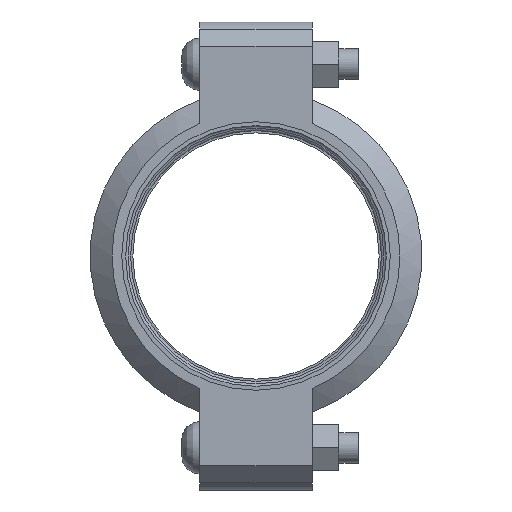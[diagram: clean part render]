
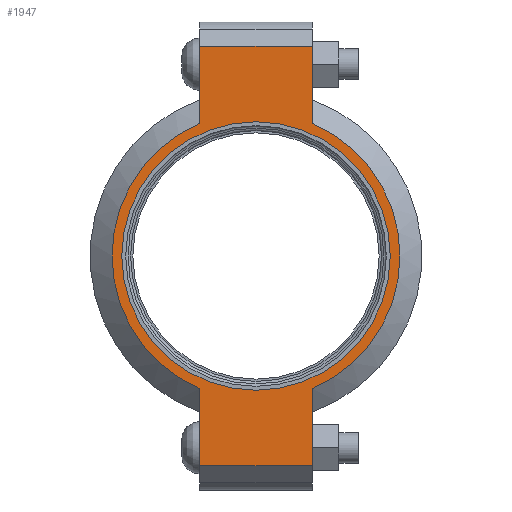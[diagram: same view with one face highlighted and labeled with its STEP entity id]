
A CAD part, left-side view. The second image highlights one B-rep face of the part: STEP entity #1947.
In plain terms, the highlighted planar face has unit normal (-1, 0, 0) as drawn and (0, 0, 1) by its records, which use the part's own axes.
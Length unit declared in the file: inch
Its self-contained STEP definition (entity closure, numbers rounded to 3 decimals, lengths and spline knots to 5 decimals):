
#136=LINE('',#3451,#233);
#144=LINE('',#3487,#241);
#151=LINE('',#3508,#248);
#160=LINE('',#3540,#257);
#161=LINE('',#3544,#258);
#162=LINE('',#3546,#259);
#233=VECTOR('',#2815,0.3937);
#241=VECTOR('',#2831,0.3937);
#248=VECTOR('',#2850,0.3937);
#257=VECTOR('',#2875,0.3937);
#258=VECTOR('',#2880,0.3937);
#259=VECTOR('',#2881,0.3937);
#315=FACE_BOUND('',#565,.T.);
#359=PLANE('',#2286);
#447=FACE_OUTER_BOUND('',#564,.T.);
#564=EDGE_LOOP('',(#1668,#1669,#1670,#1671,#1672,#1673,#1674,#1675));
#565=EDGE_LOOP('',(#1676));
#737=CIRCLE('',#2287,2.95);
#738=CIRCLE('',#2288,2.95);
#739=CIRCLE('',#2289,2.75);
#901=VERTEX_POINT('',#3448);
#902=VERTEX_POINT('',#3450);
#913=VERTEX_POINT('',#3482);
#914=VERTEX_POINT('',#3486);
#921=VERTEX_POINT('',#3505);
#922=VERTEX_POINT('',#3507);
#932=VERTEX_POINT('',#3543);
#933=VERTEX_POINT('',#3545);
#934=VERTEX_POINT('',#3548);
#1146=EDGE_CURVE('',#902,#901,#136,.T.);
#1160=EDGE_CURVE('',#914,#913,#144,.T.);
#1170=EDGE_CURVE('',#922,#921,#151,.T.);
#1185=EDGE_CURVE('',#914,#901,#160,.T.);
#1186=EDGE_CURVE('',#913,#922,#737,.T.);
#1187=EDGE_CURVE('',#932,#921,#161,.T.);
#1188=EDGE_CURVE('',#932,#933,#162,.T.);
#1189=EDGE_CURVE('',#933,#902,#738,.T.);
#1190=EDGE_CURVE('',#934,#934,#739,.T.);
#1668=ORIENTED_EDGE('',*,*,#1185,.F.);
#1669=ORIENTED_EDGE('',*,*,#1160,.T.);
#1670=ORIENTED_EDGE('',*,*,#1186,.T.);
#1671=ORIENTED_EDGE('',*,*,#1170,.T.);
#1672=ORIENTED_EDGE('',*,*,#1187,.F.);
#1673=ORIENTED_EDGE('',*,*,#1188,.T.);
#1674=ORIENTED_EDGE('',*,*,#1189,.T.);
#1675=ORIENTED_EDGE('',*,*,#1146,.T.);
#1676=ORIENTED_EDGE('',*,*,#1190,.T.);
#1947=ADVANCED_FACE('',(#447,#315),#359,.T.);
#2286=AXIS2_PLACEMENT_3D('',#3541,#2876,#2877);
#2287=AXIS2_PLACEMENT_3D('',#3542,#2878,#2879);
#2288=AXIS2_PLACEMENT_3D('',#3547,#2882,#2883);
#2289=AXIS2_PLACEMENT_3D('',#3549,#2884,#2885);
#2815=DIRECTION('',(1.,0.,0.));
#2831=DIRECTION('',(-1.,0.,0.));
#2850=DIRECTION('',(-1.,0.,0.));
#2875=DIRECTION('',(0.,-1.,0.));
#2876=DIRECTION('center_axis',(0.,0.,1.));
#2877=DIRECTION('ref_axis',(-1.,0.,0.));
#2878=DIRECTION('center_axis',(0.,0.,1.));
#2879=DIRECTION('ref_axis',(1.,0.,0.));
#2880=DIRECTION('',(0.,1.,0.));
#2881=DIRECTION('',(1.,0.,0.));
#2882=DIRECTION('center_axis',(0.,0.,1.));
#2883=DIRECTION('ref_axis',(1.,0.,0.));
#2884=DIRECTION('center_axis',(0.,0.,-1.));
#2885=DIRECTION('ref_axis',(1.,0.,0.));
#3448=CARTESIAN_POINT('',(4.295,-1.15,1.065));
#3450=CARTESIAN_POINT('',(2.71662,-1.15,1.065));
#3451=CARTESIAN_POINT('',(4.795,-1.15,1.065));
#3482=CARTESIAN_POINT('',(2.71662,1.15,1.065));
#3486=CARTESIAN_POINT('',(4.295,1.15,1.065));
#3487=CARTESIAN_POINT('',(-4.795,1.15,1.065));
#3505=CARTESIAN_POINT('',(-4.295,1.15,1.065));
#3507=CARTESIAN_POINT('',(-2.71662,1.15,1.065));
#3508=CARTESIAN_POINT('',(-4.795,1.15,1.065));
#3540=CARTESIAN_POINT('',(4.295,-0.575,1.065));
#3541=CARTESIAN_POINT('Origin',(0.,0.,
1.065));
#3542=CARTESIAN_POINT('Origin',(0.,0.,1.065));
#3543=CARTESIAN_POINT('',(-4.295,-1.15,1.065));
#3544=CARTESIAN_POINT('',(-4.295,0.575,1.065));
#3545=CARTESIAN_POINT('',(-2.71662,-1.15,1.065));
#3546=CARTESIAN_POINT('',(4.795,-1.15,1.065));
#3547=CARTESIAN_POINT('Origin',(0.,0.,1.065));
#3548=CARTESIAN_POINT('',(-2.75,0.,1.065));
#3549=CARTESIAN_POINT('Origin',(0.,0.,1.065));
